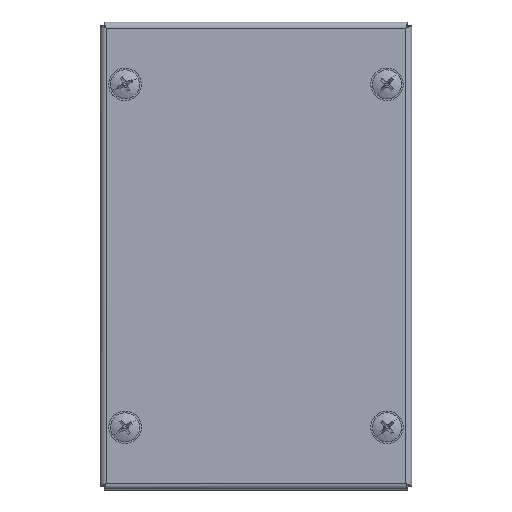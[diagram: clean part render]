
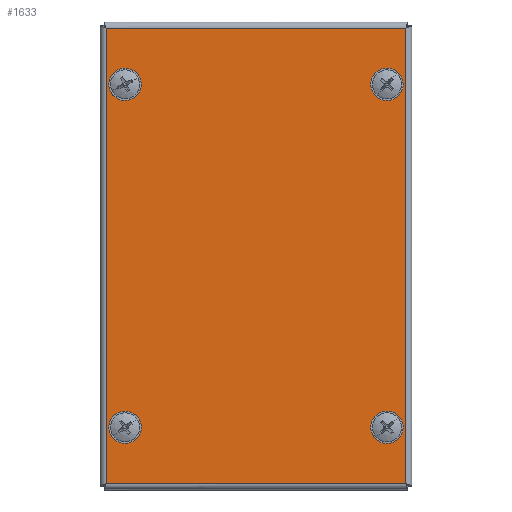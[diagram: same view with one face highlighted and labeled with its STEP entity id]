
A CAD part, top view. The second image highlights one B-rep face of the part: STEP entity #1633.
In plain terms, the highlighted planar face has unit normal (0, 0, 1) as drawn and (0, 0, -1) by its records, which use the part's own axes.
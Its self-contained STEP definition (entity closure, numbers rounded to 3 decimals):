
#80 = VERTEX_POINT ( 'NONE', #1675 ) ;
#250 = ORIENTED_EDGE ( 'NONE', *, *, #3244, .T. ) ;
#434 = CARTESIAN_POINT ( 'NONE',  ( -48.063, 73.063, -1.2 ) ) ;
#866 = EDGE_CURVE ( 'NONE', #10142, #13933, #5129, .T. ) ;
#900 = CARTESIAN_POINT ( 'NONE',  ( 42., 55., -1.2 ) ) ;
#920 = DIRECTION ( 'NONE',  ( 0., 0., 1. ) ) ;
#949 = VERTEX_POINT ( 'NONE', #3923 ) ;
#1002 = AXIS2_PLACEMENT_3D ( 'NONE', #8499, #1718, #6273 ) ;
#1137 = DIRECTION ( 'NONE',  ( 1., 0., 0. ) ) ;
#1200 = EDGE_CURVE ( 'NONE', #1480, #7421, #12466, .T. ) ;
#1480 = VERTEX_POINT ( 'NONE', #12801 ) ;
#1633 = ADVANCED_FACE ( 'NONE', ( #1798, #7192, #14443, #7383, #13718 ), #10963, .F. ) ;
#1660 = CARTESIAN_POINT ( 'NONE',  ( 48.063, 73.093, -1.2 ) ) ;
#1675 = CARTESIAN_POINT ( 'NONE',  ( 48.063, -73.063, -1.2 ) ) ;
#1688 = VERTEX_POINT ( 'NONE', #12276 ) ;
#1718 = DIRECTION ( 'NONE',  ( 0., 0., 1. ) ) ;
#1778 = DIRECTION ( 'NONE',  ( 0., 0., 1. ) ) ;
#1798 = FACE_BOUND ( 'NONE', #9206, .T. ) ;
#2265 = EDGE_LOOP ( 'NONE', ( #12464, #12832 ) ) ;
#2443 = AXIS2_PLACEMENT_3D ( 'NONE', #9007, #11175, #6739 ) ;
#2458 = ORIENTED_EDGE ( 'NONE', *, *, #14233, .T. ) ;
#2567 = AXIS2_PLACEMENT_3D ( 'NONE', #14773, #920, #4537 ) ;
#2642 = CARTESIAN_POINT ( 'NONE',  ( 48.093, -73.063, -1.2 ) ) ;
#2952 = ORIENTED_EDGE ( 'NONE', *, *, #1200, .T. ) ;
#3131 = DIRECTION ( 'NONE',  ( 0., 0., 1. ) ) ;
#3244 = EDGE_CURVE ( 'NONE', #10778, #3523, #10072, .T. ) ;
#3491 = CARTESIAN_POINT ( 'NONE',  ( 42., -55., -1.2 ) ) ;
#3523 = VERTEX_POINT ( 'NONE', #434 ) ;
#3567 = EDGE_LOOP ( 'NONE', ( #250, #14523, #4742, #12343 ) ) ;
#3896 = DIRECTION ( 'NONE',  ( 0., 0., 1. ) ) ;
#3923 = CARTESIAN_POINT ( 'NONE',  ( -38., 55., -1.2 ) ) ;
#3959 = AXIS2_PLACEMENT_3D ( 'NONE', #900, #3131, #12195 ) ;
#4042 = CARTESIAN_POINT ( 'NONE',  ( -42., 55., -1.2 ) ) ;
#4225 = CIRCLE ( 'NONE', #2443, 4. ) ;
#4519 = AXIS2_PLACEMENT_3D ( 'NONE', #10322, #12491, #1137 ) ;
#4537 = DIRECTION ( 'NONE',  ( 1., 0., 0. ) ) ;
#4679 = CARTESIAN_POINT ( 'NONE',  ( 38., 55., -1.2 ) ) ;
#4742 = ORIENTED_EDGE ( 'NONE', *, *, #10591, .T. ) ;
#4922 = LINE ( 'NONE', #6243, #13796 ) ;
#5024 = VERTEX_POINT ( 'NONE', #12724 ) ;
#5129 = CIRCLE ( 'NONE', #6545, 4. ) ;
#5139 = CARTESIAN_POINT ( 'NONE',  ( 46., -55., -1.2 ) ) ;
#5167 = VERTEX_POINT ( 'NONE', #9620 ) ;
#5233 = DIRECTION ( 'NONE',  ( 1., 0., 0. ) ) ;
#5690 = CARTESIAN_POINT ( 'NONE',  ( -48.063, -73.093, -1.2 ) ) ;
#5697 = LINE ( 'NONE', #1660, #8955 ) ;
#5739 = CARTESIAN_POINT ( 'NONE',  ( 38., -55., -1.2 ) ) ;
#6098 = EDGE_CURVE ( 'NONE', #949, #5167, #9415, .T. ) ;
#6243 = CARTESIAN_POINT ( 'NONE',  ( -48.093, 73.063, -1.2 ) ) ;
#6272 = DIRECTION ( 'NONE',  ( 0., -1., 0. ) ) ;
#6273 = DIRECTION ( 'NONE',  ( 1., 0., 0. ) ) ;
#6307 = EDGE_LOOP ( 'NONE', ( #9160, #10695 ) ) ;
#6355 = DIRECTION ( 'NONE',  ( 1., 0., 0. ) ) ;
#6454 = DIRECTION ( 'NONE',  ( 0., 0., 1. ) ) ;
#6545 = AXIS2_PLACEMENT_3D ( 'NONE', #3491, #11754, #11552 ) ;
#6603 = CIRCLE ( 'NONE', #1002, 4. ) ;
#6739 = DIRECTION ( 'NONE',  ( 1., 0., 0. ) ) ;
#6904 = EDGE_CURVE ( 'NONE', #80, #10778, #14656, .T. ) ;
#7192 = FACE_BOUND ( 'NONE', #6307, .T. ) ;
#7383 = FACE_BOUND ( 'NONE', #2265, .T. ) ;
#7421 = VERTEX_POINT ( 'NONE', #4679 ) ;
#7760 = CARTESIAN_POINT ( 'NONE',  ( -48.063, -73.063, -1.2 ) ) ;
#8119 = AXIS2_PLACEMENT_3D ( 'NONE', #8617, #1778, #5233 ) ;
#8248 = VECTOR ( 'NONE', #14966, 1000. ) ;
#8499 = CARTESIAN_POINT ( 'NONE',  ( -42., -55., -1.2 ) ) ;
#8617 = CARTESIAN_POINT ( 'NONE',  ( -42., -55., -1.2 ) ) ;
#8955 = VECTOR ( 'NONE', #6272, 1000. ) ;
#9007 = CARTESIAN_POINT ( 'NONE',  ( 42., -55., -1.2 ) ) ;
#9094 = CIRCLE ( 'NONE', #3959, 4. ) ;
#9160 = ORIENTED_EDGE ( 'NONE', *, *, #866, .T. ) ;
#9206 = EDGE_LOOP ( 'NONE', ( #2458, #12640 ) ) ;
#9415 = CIRCLE ( 'NONE', #2567, 4. ) ;
#9450 = AXIS2_PLACEMENT_3D ( 'NONE', #9854, #3896, #6355 ) ;
#9620 = CARTESIAN_POINT ( 'NONE',  ( -46., 55., -1.2 ) ) ;
#9854 = CARTESIAN_POINT ( 'NONE',  ( 0., 0., -1.2 ) ) ;
#9919 = EDGE_CURVE ( 'NONE', #5024, #1688, #10781, .T. ) ;
#9947 = VECTOR ( 'NONE', #10560, 1000. ) ;
#10072 = LINE ( 'NONE', #5690, #8248 ) ;
#10142 = VERTEX_POINT ( 'NONE', #5139 ) ;
#10322 = CARTESIAN_POINT ( 'NONE',  ( 42., 55., -1.2 ) ) ;
#10374 = AXIS2_PLACEMENT_3D ( 'NONE', #4042, #6454, #12269 ) ;
#10560 = DIRECTION ( 'NONE',  ( -1., 0., 0. ) ) ;
#10591 = EDGE_CURVE ( 'NONE', #10765, #80, #5697, .T. ) ;
#10695 = ORIENTED_EDGE ( 'NONE', *, *, #12361, .T. ) ;
#10765 = VERTEX_POINT ( 'NONE', #13720 ) ;
#10778 = VERTEX_POINT ( 'NONE', #7760 ) ;
#10781 = CIRCLE ( 'NONE', #8119, 4. ) ;
#10963 = PLANE ( 'NONE',  #9450 ) ;
#11175 = DIRECTION ( 'NONE',  ( 0., 0., 1. ) ) ;
#11552 = DIRECTION ( 'NONE',  ( 1., 0., 0. ) ) ;
#11555 = EDGE_LOOP ( 'NONE', ( #2952, #14360 ) ) ;
#11754 = DIRECTION ( 'NONE',  ( 0., 0., 1. ) ) ;
#11811 = CIRCLE ( 'NONE', #10374, 4. ) ;
#11874 = DIRECTION ( 'NONE',  ( 1., 0., 0. ) ) ;
#12195 = DIRECTION ( 'NONE',  ( 1., 0., 0. ) ) ;
#12269 = DIRECTION ( 'NONE',  ( 1., 0., 0. ) ) ;
#12276 = CARTESIAN_POINT ( 'NONE',  ( -38., -55., -1.2 ) ) ;
#12343 = ORIENTED_EDGE ( 'NONE', *, *, #6904, .T. ) ;
#12361 = EDGE_CURVE ( 'NONE', #13933, #10142, #4225, .T. ) ;
#12464 = ORIENTED_EDGE ( 'NONE', *, *, #6098, .T. ) ;
#12466 = CIRCLE ( 'NONE', #4519, 4. ) ;
#12491 = DIRECTION ( 'NONE',  ( 0., 0., 1. ) ) ;
#12640 = ORIENTED_EDGE ( 'NONE', *, *, #9919, .T. ) ;
#12724 = CARTESIAN_POINT ( 'NONE',  ( -46., -55., -1.2 ) ) ;
#12801 = CARTESIAN_POINT ( 'NONE',  ( 46., 55., -1.2 ) ) ;
#12832 = ORIENTED_EDGE ( 'NONE', *, *, #13725, .T. ) ;
#12859 = EDGE_CURVE ( 'NONE', #7421, #1480, #9094, .T. ) ;
#13584 = EDGE_CURVE ( 'NONE', #3523, #10765, #4922, .T. ) ;
#13718 = FACE_OUTER_BOUND ( 'NONE', #3567, .T. ) ;
#13720 = CARTESIAN_POINT ( 'NONE',  ( 48.063, 73.063, -1.2 ) ) ;
#13725 = EDGE_CURVE ( 'NONE', #5167, #949, #11811, .T. ) ;
#13796 = VECTOR ( 'NONE', #11874, 1000. ) ;
#13933 = VERTEX_POINT ( 'NONE', #5739 ) ;
#14233 = EDGE_CURVE ( 'NONE', #1688, #5024, #6603, .T. ) ;
#14360 = ORIENTED_EDGE ( 'NONE', *, *, #12859, .T. ) ;
#14443 = FACE_BOUND ( 'NONE', #11555, .T. ) ;
#14523 = ORIENTED_EDGE ( 'NONE', *, *, #13584, .T. ) ;
#14656 = LINE ( 'NONE', #2642, #9947 ) ;
#14773 = CARTESIAN_POINT ( 'NONE',  ( -42., 55., -1.2 ) ) ;
#14966 = DIRECTION ( 'NONE',  ( 0., 1., 0. ) ) ;
